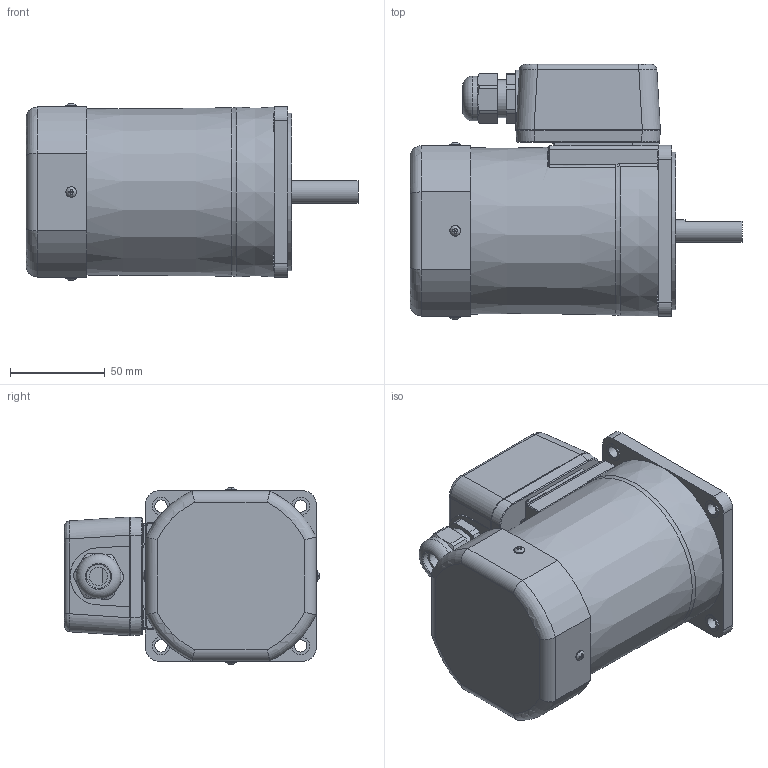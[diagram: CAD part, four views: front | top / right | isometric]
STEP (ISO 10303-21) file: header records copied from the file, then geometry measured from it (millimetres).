
FILE_DESCRIPTION((''),'2;1');
FILE_NAME('D:\STP파일\90W MOTOR\T BOX TYPE\S9I90D-T.stp','2013-05-20T18:49:52',('leebh'),(''),'Autodesk Inventor 2011','Autodesk Inventor 2011','');
FILE_SCHEMA(('AUTOMOTIVE_DESIGN { 1 0 10303 214 1 1 1 1 }'));
Length unit declared in the file: millimetre
Products named in the file (1): S9I90G-T1
Bounding box: 174.8 x 134.44 x 93.49 mm (x, y, z)
Volume: 1087622.7 mm3; surface area: 83518.3 mm2
Topology: 1 solids, 13 shells, 475 faces, 1166 edges, 742 vertices
Faces by surface type: plane 255, cylinder 124, bspline 55, torus 33, cone 8
Full cylindrical faces by diameter (mm): 2.55 x2, 3 x4, 3.5 x4, 5.6 x8, 6.3 x4, 6.5 x4, 9.5 x4, 12 x1, 12.5 x1, 15 x1, 20 x2, 21 x1, 23.6 x1, 40 x1, 83 x1
Entity records: 15964 total; most frequent: CARTESIAN_POINT 5028, ORIENTED_EDGE 2148, DIRECTION 2044, EDGE_CURVE 1074, AXIS2_PLACEMENT_3D 733, VERTEX_POINT 725, EDGE_LOOP 593, VECTOR 578
